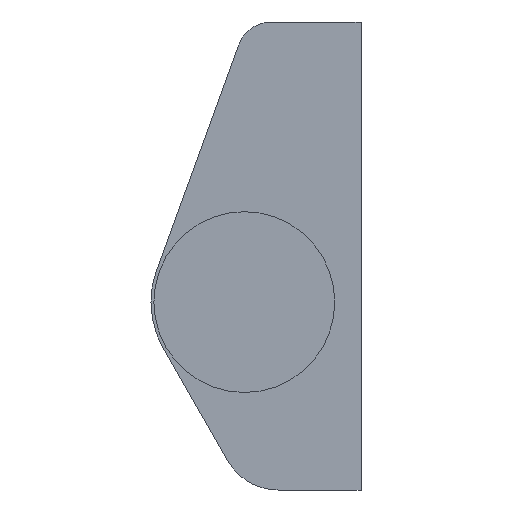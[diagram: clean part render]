
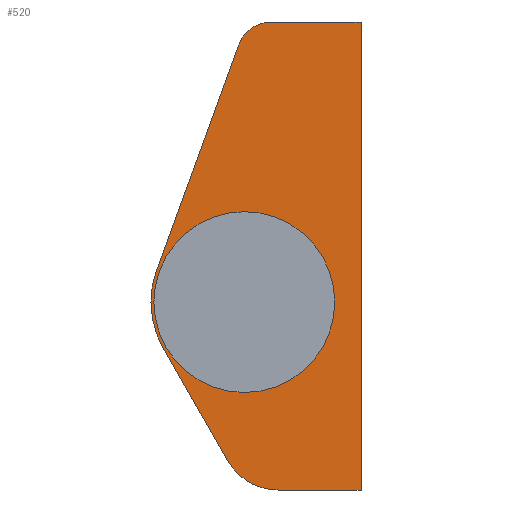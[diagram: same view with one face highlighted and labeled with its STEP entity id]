
A CAD part, front view. The second image highlights one B-rep face of the part: STEP entity #520.
In plain terms, the highlighted planar face has unit normal (0, -1, 0).
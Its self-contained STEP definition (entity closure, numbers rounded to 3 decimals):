
#11 = EDGE_CURVE ( 'NONE', #95, #97, #435, .T. ) ;
#19 = AXIS2_PLACEMENT_3D ( 'NONE', #111, #175, #176 ) ;
#24 = EDGE_CURVE ( 'NONE', #93, #94, #440, .T. ) ;
#26 = AXIS2_PLACEMENT_3D ( 'NONE', #245, #251, #252 ) ;
#32 = EDGE_CURVE ( 'NONE', #112, #102, #443, .T. ) ;
#39 = AXIS2_PLACEMENT_3D ( 'NONE', #186, #203, #204 ) ;
#41 = AXIS2_PLACEMENT_3D ( 'NONE', #145, #152, #153 ) ;
#42 = EDGE_CURVE ( 'NONE', #92, #112, #447, .T. ) ;
#47 = AXIS2_PLACEMENT_3D ( 'NONE', #135, #143, #144 ) ;
#57 = EDGE_CURVE ( 'NONE', #98, #99, #460, .T. ) ;
#58 = AXIS2_PLACEMENT_3D ( 'NONE', #151, #157, #158 ) ;
#60 = EDGE_CURVE ( 'NONE', #97, #96, #459, .T. ) ;
#65 = EDGE_CURVE ( 'NONE', #99, #98, #466, .T. ) ;
#67 = EDGE_CURVE ( 'NONE', #91, #92, #454, .T. ) ;
#77 = EDGE_CURVE ( 'NONE', #96, #91, #478, .T. ) ;
#80 = AXIS2_PLACEMENT_3D ( 'NONE', #185, #187, #188 ) ;
#82 = EDGE_CURVE ( 'NONE', #102, #93, #479, .T. ) ;
#88 = EDGE_CURVE ( 'NONE', #94, #95, #484, .T. ) ;
#91 = VERTEX_POINT ( 'NONE', #217 ) ;
#92 = VERTEX_POINT ( 'NONE', #220 ) ;
#93 = VERTEX_POINT ( 'NONE', #221 ) ;
#94 = VERTEX_POINT ( 'NONE', #222 ) ;
#95 = VERTEX_POINT ( 'NONE', #216 ) ;
#96 = VERTEX_POINT ( 'NONE', #223 ) ;
#97 = VERTEX_POINT ( 'NONE', #224 ) ;
#98 = VERTEX_POINT ( 'NONE', #225 ) ;
#99 = VERTEX_POINT ( 'NONE', #226 ) ;
#102 = VERTEX_POINT ( 'NONE', #229 ) ;
#111 = CARTESIAN_POINT ( 'NONE',  ( 0., 564., 0. ) ) ;
#112 = VERTEX_POINT ( 'NONE', #236 ) ;
#124 = CARTESIAN_POINT ( 'NONE',  ( 10., 564., -16.1 ) ) ;
#130 = DIRECTION ( 'NONE',  ( 0., 0., -1. ) ) ;
#135 = CARTESIAN_POINT ( 'NONE',  ( 2.322, 564., 21. ) ) ;
#143 = DIRECTION ( 'NONE',  ( 0., 1., 0. ) ) ;
#144 = DIRECTION ( 'NONE',  ( 1., 0., 0. ) ) ;
#145 = CARTESIAN_POINT ( 'NONE',  ( 0., 564., 0. ) ) ;
#151 = CARTESIAN_POINT ( 'NONE',  ( 0., 564., 0. ) ) ;
#152 = DIRECTION ( 'NONE',  ( 0., 1., 0. ) ) ;
#153 = DIRECTION ( 'NONE',  ( 1., 0., 0. ) ) ;
#157 = DIRECTION ( 'NONE',  ( 0., 1., 0. ) ) ;
#158 = DIRECTION ( 'NONE',  ( 1., 0., 0. ) ) ;
#166 = CARTESIAN_POINT ( 'NONE',  ( 2.899, 564., -16.1 ) ) ;
#175 = DIRECTION ( 'NONE',  ( 0., 1., 0. ) ) ;
#176 = DIRECTION ( 'NONE',  ( 1., 0., 0. ) ) ;
#178 = DIRECTION ( 'NONE',  ( -1., 0., 0. ) ) ;
#185 = CARTESIAN_POINT ( 'NONE',  ( 0., 564., 0. ) ) ;
#186 = CARTESIAN_POINT ( 'NONE',  ( 2.899, 564., -11.1 ) ) ;
#187 = DIRECTION ( 'NONE',  ( 0., 1., 0. ) ) ;
#188 = DIRECTION ( 'NONE',  ( 1., 0., 0. ) ) ;
#189 = CARTESIAN_POINT ( 'NONE',  ( -6.942, 564., -3.975 ) ) ;
#190 = DIRECTION ( 'NONE',  ( -0.497, 0., 0.868 ) ) ;
#202 = CARTESIAN_POINT ( 'NONE',  ( 10., 564., 24. ) ) ;
#203 = DIRECTION ( 'NONE',  ( 0., 1., 0. ) ) ;
#204 = DIRECTION ( 'NONE',  ( 1., 0., 0. ) ) ;
#207 = CARTESIAN_POINT ( 'NONE',  ( -0.497, 564., 22.026 ) ) ;
#208 = DIRECTION ( 'NONE',  ( 0.342, 0., 0.94 ) ) ;
#216 = CARTESIAN_POINT ( 'NONE',  ( 10., 564., 24. ) ) ;
#217 = CARTESIAN_POINT ( 'NONE',  ( -1.44, 564., -13.584 ) ) ;
#218 = DIRECTION ( 'NONE',  ( 1., 0., 0. ) ) ;
#220 = CARTESIAN_POINT ( 'NONE',  ( -6.942, 564., -3.975 ) ) ;
#221 = CARTESIAN_POINT ( 'NONE',  ( -0.497, 564., 22.026 ) ) ;
#222 = CARTESIAN_POINT ( 'NONE',  ( 2.322, 564., 24. ) ) ;
#223 = CARTESIAN_POINT ( 'NONE',  ( 2.899, 564., -16.1 ) ) ;
#224 = CARTESIAN_POINT ( 'NONE',  ( 10., 564., -16.1 ) ) ;
#225 = CARTESIAN_POINT ( 'NONE',  ( 6., 564., 0. ) ) ;
#226 = CARTESIAN_POINT ( 'NONE',  ( -6., 564., 0. ) ) ;
#229 = CARTESIAN_POINT ( 'NONE',  ( -7.518, 564., 2.736 ) ) ;
#236 = CARTESIAN_POINT ( 'NONE',  ( -8., 564., 0. ) ) ;
#245 = CARTESIAN_POINT ( 'NONE',  ( 2.322, 564., 21. ) ) ;
#250 = PLANE ( 'NONE',  #26 ) ;
#251 = DIRECTION ( 'NONE',  ( 0., 1., 0. ) ) ;
#252 = DIRECTION ( 'NONE',  ( 1., 0., 0. ) ) ;
#377 = ORIENTED_EDGE ( 'NONE', *, *, #65, .T. ) ;
#378 = ORIENTED_EDGE ( 'NONE', *, *, #57, .T. ) ;
#379 = ORIENTED_EDGE ( 'NONE', *, *, #77, .F. ) ;
#380 = ORIENTED_EDGE ( 'NONE', *, *, #67, .F. ) ;
#381 = ORIENTED_EDGE ( 'NONE', *, *, #42, .F. ) ;
#382 = ORIENTED_EDGE ( 'NONE', *, *, #32, .F. ) ;
#383 = ORIENTED_EDGE ( 'NONE', *, *, #82, .F. ) ;
#384 = ORIENTED_EDGE ( 'NONE', *, *, #24, .F. ) ;
#385 = ORIENTED_EDGE ( 'NONE', *, *, #88, .F. ) ;
#404 = EDGE_LOOP ( 'NONE', ( #378, #377 ) ) ;
#406 = EDGE_LOOP ( 'NONE', ( #413, #428, #385, #384, #383, #382, #381, #380, #379 ) ) ;
#413 = ORIENTED_EDGE ( 'NONE', *, *, #60, .F. ) ;
#428 = ORIENTED_EDGE ( 'NONE', *, *, #11, .F. ) ;
#432 = VECTOR ( 'NONE', #130, 1000. ) ;
#435 = LINE ( 'NONE', #124, #432 ) ;
#440 = CIRCLE ( 'NONE', #47, 3. ) ;
#443 = CIRCLE ( 'NONE', #41, 8. ) ;
#447 = CIRCLE ( 'NONE', #58, 8. ) ;
#453 = VECTOR ( 'NONE', #178, 1000. ) ;
#454 = LINE ( 'NONE', #189, #458 ) ;
#458 = VECTOR ( 'NONE', #190, 1000. ) ;
#459 = LINE ( 'NONE', #166, #453 ) ;
#460 = CIRCLE ( 'NONE', #19, 6. ) ;
#466 = CIRCLE ( 'NONE', #80, 6. ) ;
#478 = CIRCLE ( 'NONE', #39, 5. ) ;
#479 = LINE ( 'NONE', #207, #480 ) ;
#480 = VECTOR ( 'NONE', #208, 1000. ) ;
#484 = LINE ( 'NONE', #202, #486 ) ;
#486 = VECTOR ( 'NONE', #218, 1000. ) ;
#487 = FACE_BOUND ( 'NONE', #404, .T. ) ;
#490 = FACE_OUTER_BOUND ( 'NONE', #406, .T. ) ;
#520 = ADVANCED_FACE ( 'NONE', ( #490, #487 ), #250, .F. ) ;
